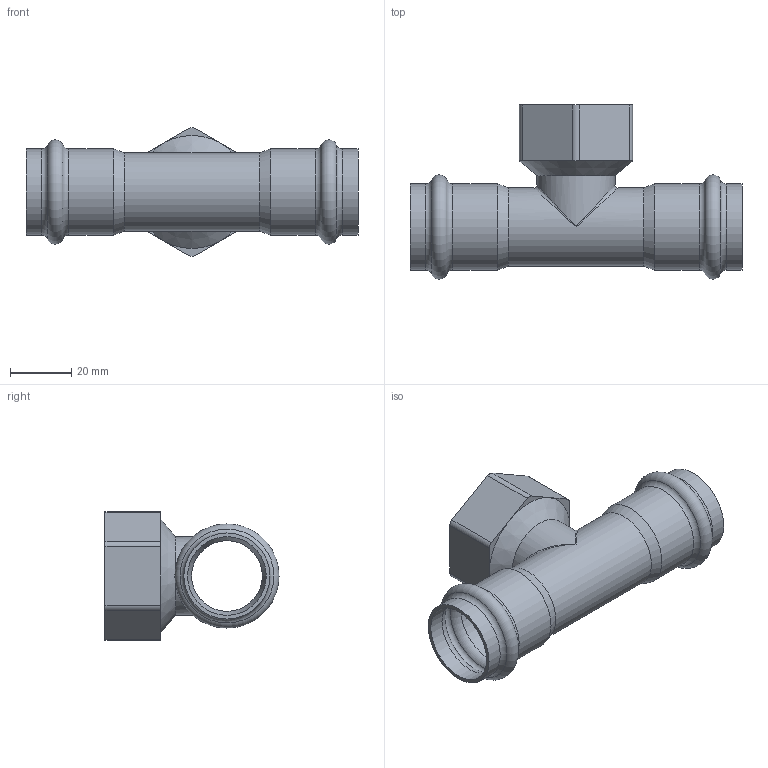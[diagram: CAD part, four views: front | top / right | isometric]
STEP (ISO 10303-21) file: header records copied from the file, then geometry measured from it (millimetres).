
FILE_DESCRIPTION(/* description */ (''),/* implementation_level */ '2;1');
FILE_NAME(/* name */ '51267020201.stp',/* time_stamp */ '2020-06-22T14:53:04+08:00',/* author */ (''),/* organization */ (''),/* preprocessor_version */ 'ST-DEVELOPER v11',/* originating_system */ 'SIEMENS PLM Software NX 7.5',/* authorisation */ '');
FILE_SCHEMA (('CONFIG_CONTROL_DESIGN'));
Length unit declared in the file: millimetre
Products named in the file (1): Admi4F60b48w
Bounding box: 108 x 56.62 x 41.87 mm (x, y, z)
Volume: 20748.5 mm3; surface area: 24828.5 mm2
Topology: 1 solids, 1 shells, 52 faces, 119 edges, 65 vertices
Faces by surface type: cylinder 19, plane 12, torus 12, cone 7, bspline 2
Full cylindrical faces by diameter (mm): 23 x1, 23.4 x1, 25.4 x2, 25.6 x4, 28 x4, 30.3 x1
Entity records: 1462 total; most frequent: CARTESIAN_POINT 345, DIRECTION 232, ORIENTED_EDGE 160, AXIS2_PLACEMENT_3D 103, EDGE_LOOP 90, EDGE_CURVE 80, FACE_BOUND 74, VERTEX_POINT 64
